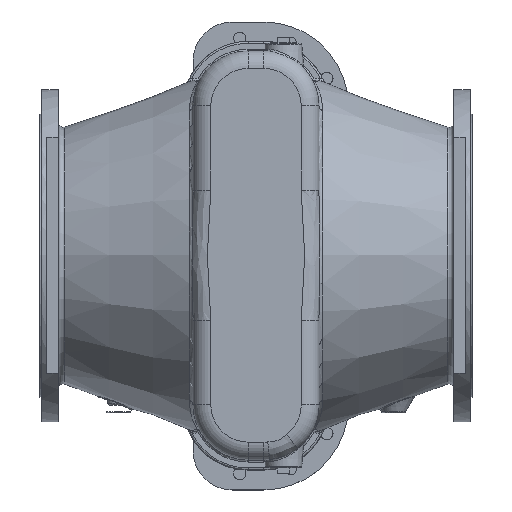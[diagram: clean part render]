
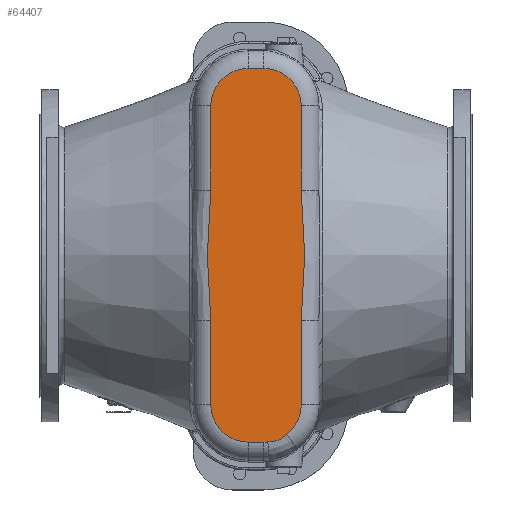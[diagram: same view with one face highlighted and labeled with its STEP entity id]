
A CAD part, top view. The second image highlights one B-rep face of the part: STEP entity #64407.
In plain terms, the highlighted planar face has unit normal (0, 0, 1).
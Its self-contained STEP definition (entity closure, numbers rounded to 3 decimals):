
#2875=B_SPLINE_CURVE_WITH_KNOTS('',3,(#115213,#115214,#115215,#115216,#115217,
#115218,#115219,#115220,#115221,#115222),.UNSPECIFIED.,.F.,.F.,(4,1,1,1,
1,1,1,4),(0.,4.75,9.499,14.249,
18.999,23.748,28.498,33.247),
 .UNSPECIFIED.);
#2877=B_SPLINE_CURVE_WITH_KNOTS('',3,(#115578,#115579,#115580,#115581,#115582,
#115583,#115584,#115585,#115586,#115587,#115588,#115589,#115590,#115591,
#115592,#115593),.UNSPECIFIED.,.F.,.F.,(4,1,1,1,1,1,1,1,1,1,1,1,1,4),(0.,
0.764,1.528,1.91,2.291,2.546,
2.801,3.055,3.565,3.819,4.201,
4.583,4.965,5.347),.UNSPECIFIED.);
#2879=B_SPLINE_CURVE_WITH_KNOTS('',3,(#115686,#115687,#115688,#115689,#115690,
#115691,#115692,#115693,#115694,#115695),.UNSPECIFIED.,.F.,.F.,(4,1,1,1,
1,1,1,4),(0.,4.75,9.499,14.249,
18.999,23.748,28.498,33.247),
 .UNSPECIFIED.);
#5005=PLANE('',#69353);
#7957=LINE('',#115129,#12214);
#7958=LINE('',#115225,#12215);
#7960=LINE('',#115239,#12217);
#7962=LINE('',#115242,#12219);
#7964=LINE('',#115602,#12221);
#7965=LINE('',#115697,#12222);
#12214=VECTOR('',#80642,10.);
#12215=VECTOR('',#80647,10.);
#12217=VECTOR('',#80667,10.);
#12219=VECTOR('',#80671,10.);
#12221=VECTOR('',#80693,10.);
#12222=VECTOR('',#80698,10.);
#16318=FACE_OUTER_BOUND('',#20082,.T.);
#20082=EDGE_LOOP('',(#49252,#49253,#49254,#49255,#49256,#49257,#49258,#49259,
#49260,#49261,#49262,#49263,#49264,#49265));
#23152=CIRCLE('',#68005,95.);
#23782=CIRCLE('',#69324,95.);
#23784=CIRCLE('',#69327,95.);
#23788=CIRCLE('',#69334,95.);
#23790=CIRCLE('',#69337,95.);
#26837=VERTEX_POINT('',#104847);
#26838=VERTEX_POINT('',#104849);
#27960=VERTEX_POINT('',#115123);
#27962=VERTEX_POINT('',#115127);
#27963=VERTEX_POINT('',#115200);
#27965=VERTEX_POINT('',#115224);
#27966=VERTEX_POINT('',#115229);
#27967=VERTEX_POINT('',#115233);
#27968=VERTEX_POINT('',#115237);
#27969=VERTEX_POINT('',#115244);
#27970=VERTEX_POINT('',#115246);
#27971=VERTEX_POINT('',#115361);
#27973=VERTEX_POINT('',#115598);
#27975=VERTEX_POINT('',#115673);
#33720=EDGE_CURVE('',#26837,#26838,#23152,.T.);
#35582=EDGE_CURVE('',#27962,#27960,#7957,.T.);
#35585=EDGE_CURVE('',#27960,#27963,#2875,.T.);
#35586=EDGE_CURVE('',#27963,#27965,#7958,.T.);
#35590=EDGE_CURVE('',#27966,#27962,#23782,.T.);
#35592=EDGE_CURVE('',#27965,#27967,#23784,.T.);
#35594=EDGE_CURVE('',#27968,#27966,#7960,.T.);
#35596=EDGE_CURVE('',#27967,#26837,#7962,.T.);
#35599=EDGE_CURVE('',#27970,#27969,#23788,.T.);
#35602=EDGE_CURVE('',#27969,#27971,#2877,.T.);
#35603=EDGE_CURVE('',#27971,#27968,#23790,.T.);
#35607=EDGE_CURVE('',#26838,#27973,#7964,.T.);
#35610=EDGE_CURVE('',#27973,#27975,#2879,.T.);
#35611=EDGE_CURVE('',#27975,#27970,#7965,.T.);
#49252=ORIENTED_EDGE('',*,*,#35599,.F.);
#49253=ORIENTED_EDGE('',*,*,#35611,.F.);
#49254=ORIENTED_EDGE('',*,*,#35610,.F.);
#49255=ORIENTED_EDGE('',*,*,#35607,.F.);
#49256=ORIENTED_EDGE('',*,*,#33720,.F.);
#49257=ORIENTED_EDGE('',*,*,#35596,.F.);
#49258=ORIENTED_EDGE('',*,*,#35592,.F.);
#49259=ORIENTED_EDGE('',*,*,#35586,.F.);
#49260=ORIENTED_EDGE('',*,*,#35585,.F.);
#49261=ORIENTED_EDGE('',*,*,#35582,.F.);
#49262=ORIENTED_EDGE('',*,*,#35590,.F.);
#49263=ORIENTED_EDGE('',*,*,#35594,.F.);
#49264=ORIENTED_EDGE('',*,*,#35603,.F.);
#49265=ORIENTED_EDGE('',*,*,#35602,.F.);
#64407=ADVANCED_FACE('',(#16318),#5005,.T.);
#68005=AXIS2_PLACEMENT_3D('',#104850,#77091,#77092);
#69324=AXIS2_PLACEMENT_3D('',#115231,#80655,#80656);
#69327=AXIS2_PLACEMENT_3D('',#115235,#80661,#80662);
#69334=AXIS2_PLACEMENT_3D('',#115248,#80678,#80679);
#69337=AXIS2_PLACEMENT_3D('',#115595,#80684,#80685);
#69353=AXIS2_PLACEMENT_3D('',#115709,#80720,#80721);
#77091=DIRECTION('center_axis',(0.,0.,
-1.));
#77092=DIRECTION('ref_axis',(0.707,0.707,0.));
#80642=DIRECTION('',(0.,1.,0.));
#80647=DIRECTION('',(0.,1.,0.));
#80655=DIRECTION('center_axis',(0.,0.,
-1.));
#80656=DIRECTION('ref_axis',(-0.707,-0.707,0.));
#80661=DIRECTION('center_axis',(0.,0.,
-1.));
#80662=DIRECTION('ref_axis',(-0.707,0.707,0.));
#80667=DIRECTION('',(-1.,0.,0.));
#80671=DIRECTION('',(1.,0.,0.));
#80678=DIRECTION('center_axis',(0.,0.,
-1.));
#80679=DIRECTION('ref_axis',(0.707,-0.707,0.));
#80684=DIRECTION('center_axis',(0.,0.,
-1.));
#80685=DIRECTION('ref_axis',(0.707,-0.707,0.));
#80693=DIRECTION('',(0.,-1.,0.));
#80698=DIRECTION('',(0.,-1.,0.));
#80720=DIRECTION('center_axis',(0.,0.,
1.));
#80721=DIRECTION('ref_axis',(1.,0.,0.));
#104847=CARTESIAN_POINT('',(-17.5,475.,1040.));
#104849=CARTESIAN_POINT('',(77.5,380.,1040.));
#104850=CARTESIAN_POINT('Origin',(-17.5,380.,1040.));
#115123=CARTESIAN_POINT('',(-152.5,-165.989,1040.));
#115127=CARTESIAN_POINT('',(-152.5,-380.,1040.));
#115129=CARTESIAN_POINT('',(-152.5,-190.,1040.));
#115200=CARTESIAN_POINT('',(-152.5,165.989,1040.));
#115213=CARTESIAN_POINT('Ctrl Pts',(-152.5,-165.989,1040.));
#115214=CARTESIAN_POINT('Ctrl Pts',(-152.5,-150.157,1040.));
#115215=CARTESIAN_POINT('Ctrl Pts',(-154.13,-118.528,
1040.));
#115216=CARTESIAN_POINT('Ctrl Pts',(-158.29,-71.172,
1040.));
#115217=CARTESIAN_POINT('Ctrl Pts',(-161.412,-23.764,
1040.));
#115218=CARTESIAN_POINT('Ctrl Pts',(-161.418,23.777,
1040.));
#115219=CARTESIAN_POINT('Ctrl Pts',(-158.287,71.192,
1040.));
#115220=CARTESIAN_POINT('Ctrl Pts',(-154.133,118.497,
1040.));
#115221=CARTESIAN_POINT('Ctrl Pts',(-152.5,150.157,1040.));
#115222=CARTESIAN_POINT('Ctrl Pts',(-152.5,165.989,1040.));
#115224=CARTESIAN_POINT('',(-152.5,380.,1040.));
#115225=CARTESIAN_POINT('',(-152.5,-190.,1040.));
#115229=CARTESIAN_POINT('',(-57.5,-475.,1040.));
#115231=CARTESIAN_POINT('Origin',(-57.5,-380.,1040.));
#115233=CARTESIAN_POINT('',(-57.5,475.,1040.));
#115235=CARTESIAN_POINT('Origin',(-57.5,380.,1040.));
#115237=CARTESIAN_POINT('',(-17.5,-475.,1040.));
#115239=CARTESIAN_POINT('',(-27.5,-475.,1040.));
#115242=CARTESIAN_POINT('',(-47.5,475.,1040.));
#115244=CARTESIAN_POINT('',(40.654,-455.121,1040.));
#115246=CARTESIAN_POINT('',(77.5,-380.,1040.));
#115248=CARTESIAN_POINT('Origin',(-17.5,-380.,1040.));
#115361=CARTESIAN_POINT('',(-7.67,-474.49,1040.));
#115578=CARTESIAN_POINT('Ctrl Pts',(40.654,-455.121,
1040.));
#115579=CARTESIAN_POINT('Ctrl Pts',(38.641,-456.679,
1040.));
#115580=CARTESIAN_POINT('Ctrl Pts',(34.646,-459.842,
1040.));
#115581=CARTESIAN_POINT('Ctrl Pts',(29.573,-463.686,
1040.));
#115582=CARTESIAN_POINT('Ctrl Pts',(25.336,-466.518,
1040.));
#115583=CARTESIAN_POINT('Ctrl Pts',(22.406,-468.237,
1040.));
#115584=CARTESIAN_POINT('Ctrl Pts',(19.75,-469.571,
1040.));
#115585=CARTESIAN_POINT('Ctrl Pts',(17.408,-470.574,
1040.));
#115586=CARTESIAN_POINT('Ctrl Pts',(14.202,-471.706,
1040.));
#115587=CARTESIAN_POINT('Ctrl Pts',(10.896,-472.506,
1040.));
#115588=CARTESIAN_POINT('Ctrl Pts',(7.118,-473.115,
1040.));
#115589=CARTESIAN_POINT('Ctrl Pts',(3.746,-473.499,
1040.));
#115590=CARTESIAN_POINT('Ctrl Pts',(-0.059,-473.823,
1040.));
#115591=CARTESIAN_POINT('Ctrl Pts',(-3.868,-474.126,
1040.));
#115592=CARTESIAN_POINT('Ctrl Pts',(-6.403,-474.358,
1040.));
#115593=CARTESIAN_POINT('Ctrl Pts',(-7.67,-474.49,
1040.));
#115595=CARTESIAN_POINT('Origin',(-17.5,-380.,1040.));
#115598=CARTESIAN_POINT('',(77.5,165.989,1040.));
#115602=CARTESIAN_POINT('',(77.5,190.,1040.));
#115673=CARTESIAN_POINT('',(77.5,-165.989,1040.));
#115686=CARTESIAN_POINT('Ctrl Pts',(77.5,165.989,1040.));
#115687=CARTESIAN_POINT('Ctrl Pts',(77.5,150.157,1040.));
#115688=CARTESIAN_POINT('Ctrl Pts',(79.131,118.526,1040.));
#115689=CARTESIAN_POINT('Ctrl Pts',(83.288,71.172,1040.));
#115690=CARTESIAN_POINT('Ctrl Pts',(86.418,23.766,1040.));
#115691=CARTESIAN_POINT('Ctrl Pts',(86.412,-23.776,
1040.));
#115692=CARTESIAN_POINT('Ctrl Pts',(83.289,-71.194,
1040.));
#115693=CARTESIAN_POINT('Ctrl Pts',(79.132,-118.497,1040.));
#115694=CARTESIAN_POINT('Ctrl Pts',(77.5,-150.157,
1040.));
#115695=CARTESIAN_POINT('Ctrl Pts',(77.5,-165.989,
1040.));
#115697=CARTESIAN_POINT('',(77.5,190.,1040.));
#115709=CARTESIAN_POINT('Origin',(-37.5,0.,
1040.));
